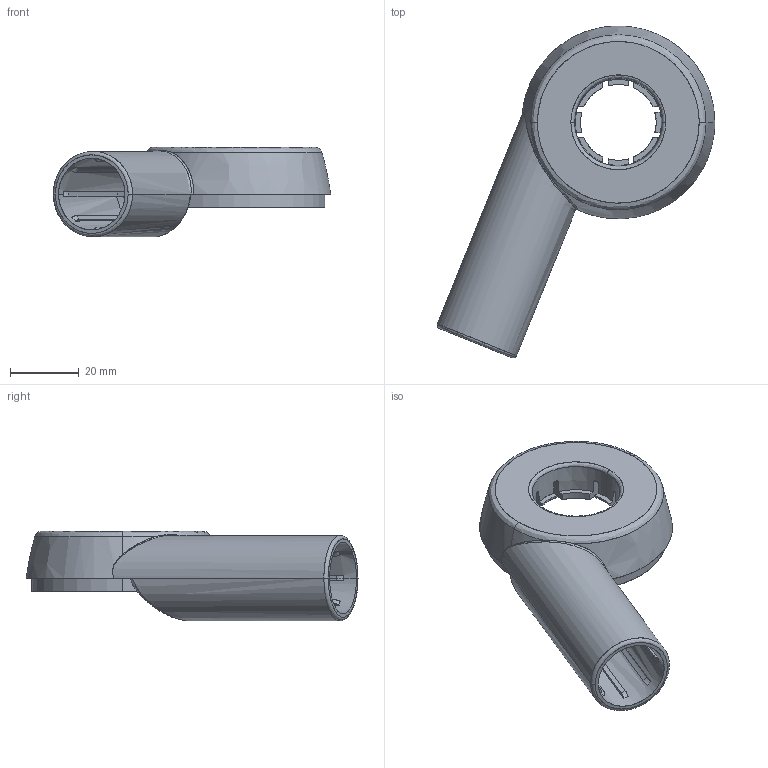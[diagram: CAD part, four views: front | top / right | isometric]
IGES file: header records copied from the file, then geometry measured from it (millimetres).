
Start section: SolidWorks IGES file using analytic representation for surfaces
Global section: file name: R:\DESIGN STORE\PRODUCTS\INDOOR AIRING\C0249 Bed Bath & Beyond X-Wing\stage 1\solidworks\C2\C0249 Iges 091013\C0249_103_C2_leg pivot inner_A.IGS; native system: SolidWorks 2013; preprocessor: SolidWorks 2013; author: howardm; date: 131009.161442; units: millimetre
Bounding box: 80.69 x 96.51 x 26.03 mm (x, y, z)
Surface area: 20023.7 mm2 (no closed solid volume)
Topology: 0 solids, 0 shells, 191 faces, 2143 edges, 2143 vertices
Faces by surface type: bspline 140, revolution 51
